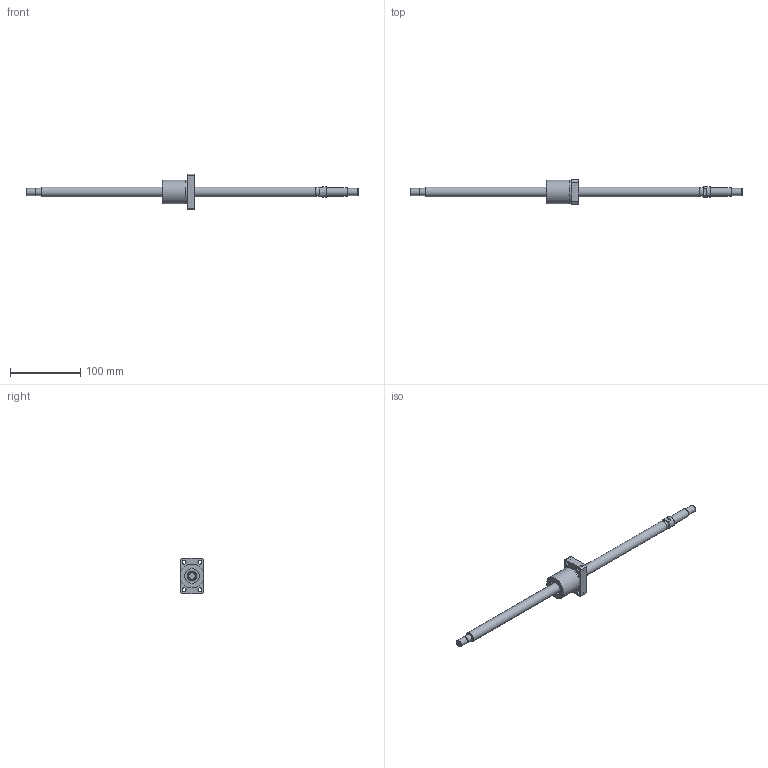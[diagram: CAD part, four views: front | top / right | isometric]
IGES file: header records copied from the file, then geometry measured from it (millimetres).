
Start section: Data from Parasolid IGES Translator 26.0.171, Copyright(c) 2006 Siemens PLM Software. All Rights Reserved.
Global section: file name: BNK1408-2.5RRG0+471LC5Y(217.50).igs; native system: By Siemens PLM Incorporated; preprocessor: XPlus GENERIC/IGES 26.0.171; author: Noname; organization: Noname; date: 20240709.091716; units: millimetre
Bounding box: 471 x 34 x 50 mm (x, y, z)
Surface area: 32362 mm2 (no closed solid volume)
Topology: 0 solids, 0 shells, 74 faces, 333 edges, 292 vertices
Faces by surface type: revolution 46, extrusion 28
